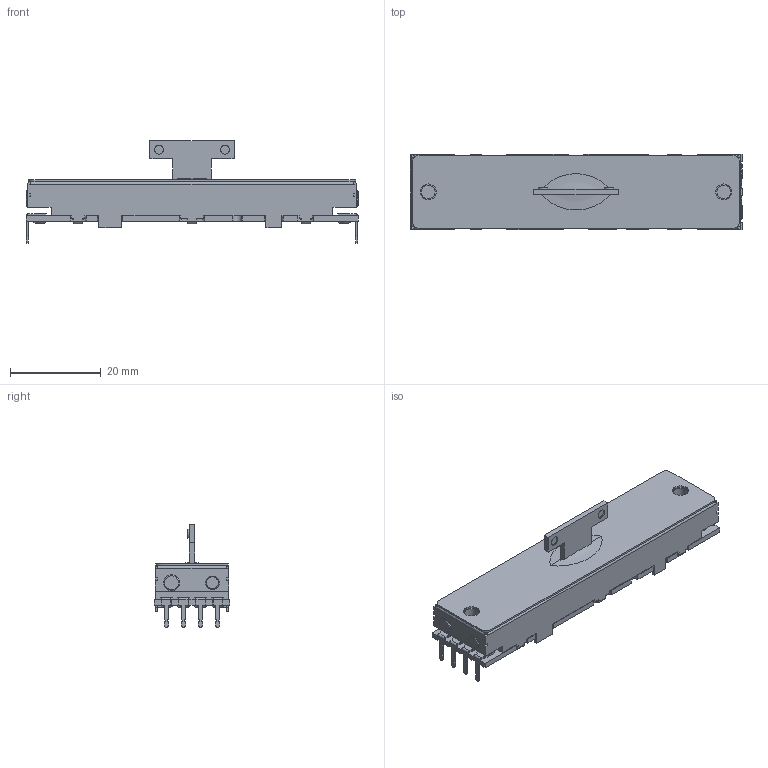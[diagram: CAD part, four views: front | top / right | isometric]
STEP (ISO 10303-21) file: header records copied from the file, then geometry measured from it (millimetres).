
FILE_DESCRIPTION(('FreeCAD Model'),'2;1');
FILE_NAME('Open CASCADE Shape Model','2023-03-16T16:22:33',(''),(''), 'Open CASCADE STEP processor 7.6','FreeCAD','Unknown');
FILE_SCHEMA(('AUTOMOTIVE_DESIGN { 1 0 10303 214 1 1 1 1 }'));
Length unit declared in the file: millimetre
Products named in the file (1): Fusion002007
Bounding box: 73 x 16.5 x 22.6 mm (x, y, z)
Volume: 10429.4 mm3; surface area: 5513.3 mm2
Topology: 1 solids, 7 shells, 592 faces, 1586 edges, 1017 vertices
Faces by surface type: plane 399, cylinder 167, cone 10, extrusion 8, torus 6, revolution 2
Full cylindrical faces by diameter (mm): 0.5 x18, 1.5 x6, 1.7 x8, 2 x4, 3 x4, 3.5 x4
Entity records: 43302 total; most frequent: CARTESIAN_POINT 10978, DIRECTION 4946, ORIENTED_EDGE 3180, PCURVE 3172, DEFINITIONAL_REPRESENTATION 3172, VECTOR 2842, LINE 2834, EDGE_CURVE 1586
